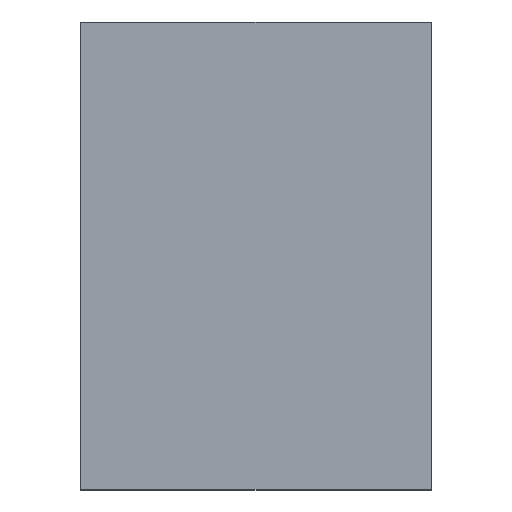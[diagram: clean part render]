
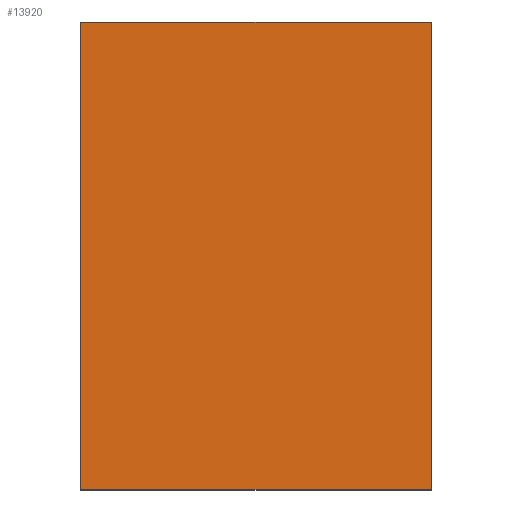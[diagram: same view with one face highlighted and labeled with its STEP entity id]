
A CAD part, left-side view. The second image highlights one B-rep face of the part: STEP entity #13920.
In plain terms, the highlighted planar face has unit normal (-1, 0, 0).
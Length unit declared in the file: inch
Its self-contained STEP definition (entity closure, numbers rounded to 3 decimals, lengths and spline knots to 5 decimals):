
#184 = VECTOR ( 'NONE', #5178, 39.37008 ) ;
#1604 = PLANE ( 'NONE',  #13144 ) ;
#1618 = CARTESIAN_POINT ( 'NONE',  ( -0.06299, 0.02362, -0.0315 ) ) ;
#1619 = DIRECTION ( 'NONE',  ( 1., 0., 0. ) ) ;
#1620 = DIRECTION ( 'NONE',  ( 0., 0., -1. ) ) ;
#2662 = LINE ( 'NONE', #2663, #16732 ) ;
#2663 = CARTESIAN_POINT ( 'NONE',  ( -0.06299, -0.02362, -0.0315 ) ) ;
#2664 = DIRECTION ( 'NONE',  ( 0., 0., 1. ) ) ;
#3741 = VERTEX_POINT ( 'NONE', #9995 ) ;
#4822 = LINE ( 'NONE', #4823, #13440 ) ;
#4823 = CARTESIAN_POINT ( 'NONE',  ( -0.06299, 0.02362, -0.0315 ) ) ;
#4824 = DIRECTION ( 'NONE',  ( 0., -1., 0. ) ) ;
#5176 = LINE ( 'NONE', #5177, #184 ) ;
#5177 = CARTESIAN_POINT ( 'NONE',  ( -0.06299, 0.02362, -0.0315 ) ) ;
#5178 = DIRECTION ( 'NONE',  ( 0., 0., 1. ) ) ;
#6613 = VERTEX_POINT ( 'NONE', #10019 ) ;
#7996 = VERTEX_POINT ( 'NONE', #12381 ) ;
#9275 = ORIENTED_EDGE ( 'NONE', *, *, #11931, .T. ) ;
#9938 = VERTEX_POINT ( 'NONE', #15403 ) ;
#9995 = CARTESIAN_POINT ( 'NONE',  ( -0.06299, -0.02362, 0.0315 ) ) ;
#10019 = CARTESIAN_POINT ( 'NONE',  ( -0.06299, 0.02362, -0.0315 ) ) ;
#10629 = EDGE_LOOP ( 'NONE', ( #14860, #14865, #14855, #9275 ) ) ;
#11931 = EDGE_CURVE ( 'NONE', #6613, #7996, #4822, .T. ) ;
#12381 = CARTESIAN_POINT ( 'NONE',  ( -0.06299, -0.02362, -0.0315 ) ) ;
#13144 = AXIS2_PLACEMENT_3D ( 'NONE', #1618, #1619, #1620 ) ;
#13146 = FACE_OUTER_BOUND ( 'NONE', #10629, .T. ) ;
#13440 = VECTOR ( 'NONE', #4824, 39.37008 ) ;
#13920 = ADVANCED_FACE ( 'NONE', ( #13146 ), #1604, .F. ) ;
#13939 = EDGE_CURVE ( 'NONE', #6613, #9938, #5176, .T. ) ;
#13949 = EDGE_CURVE ( 'NONE', #9938, #3741, #16743, .T. ) ;
#13980 = EDGE_CURVE ( 'NONE', #7996, #3741, #2662, .T. ) ;
#14819 = VECTOR ( 'NONE', #16745, 39.37008 ) ;
#14855 = ORIENTED_EDGE ( 'NONE', *, *, #13939, .F. ) ;
#14860 = ORIENTED_EDGE ( 'NONE', *, *, #13980, .T. ) ;
#14865 = ORIENTED_EDGE ( 'NONE', *, *, #13949, .F. ) ;
#15403 = CARTESIAN_POINT ( 'NONE',  ( -0.06299, 0.02362, 0.0315 ) ) ;
#16732 = VECTOR ( 'NONE', #2664, 39.37008 ) ;
#16743 = LINE ( 'NONE', #16744, #14819 ) ;
#16744 = CARTESIAN_POINT ( 'NONE',  ( -0.06299, 0.02362, 0.0315 ) ) ;
#16745 = DIRECTION ( 'NONE',  ( 0., -1., 0. ) ) ;
